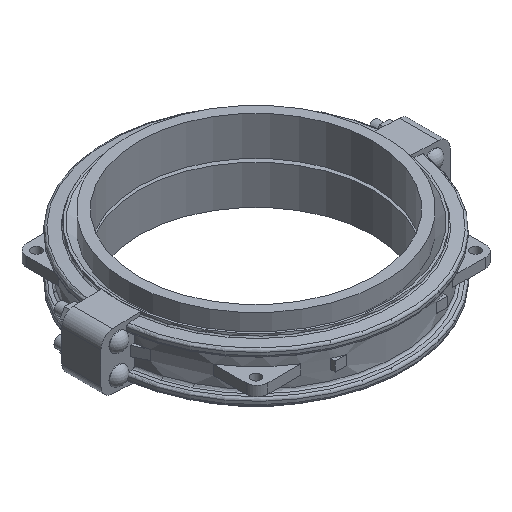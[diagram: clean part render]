
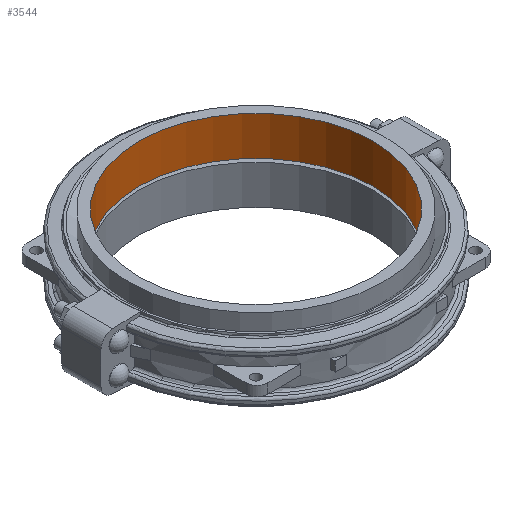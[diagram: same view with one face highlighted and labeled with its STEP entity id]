
A CAD part, isometric view. The second image highlights one B-rep face of the part: STEP entity #3544.
In plain terms, the highlighted cylindrical face has radius 304.8 mm (diameter 609.6 mm), a full revolution.
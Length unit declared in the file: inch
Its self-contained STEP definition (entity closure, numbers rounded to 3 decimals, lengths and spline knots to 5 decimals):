
#158=CYLINDRICAL_SURFACE('',#3979,12.);
#382=FACE_OUTER_BOUND('',#606,.T.);
#606=EDGE_LOOP('',(#3060,#3061,#3062,#3063,#3064,#3065));
#865=LINE('',#6479,#1122);
#1122=VECTOR('',#4960,12.);
#1291=CIRCLE('',#3977,12.);
#1292=CIRCLE('',#3978,12.);
#1293=CIRCLE('',#3980,12.);
#1294=CIRCLE('',#3981,12.);
#1623=VERTEX_POINT('',#6473);
#1624=VERTEX_POINT('',#6474);
#1625=VERTEX_POINT('',#6478);
#1626=VERTEX_POINT('',#6480);
#2103=EDGE_CURVE('',#1623,#1624,#1291,.T.);
#2104=EDGE_CURVE('',#1624,#1623,#1292,.T.);
#2105=EDGE_CURVE('',#1624,#1625,#865,.T.);
#2106=EDGE_CURVE('',#1626,#1625,#1293,.T.);
#2107=EDGE_CURVE('',#1625,#1626,#1294,.T.);
#3060=ORIENTED_EDGE('',*,*,#2103,.T.);
#3061=ORIENTED_EDGE('',*,*,#2105,.T.);
#3062=ORIENTED_EDGE('',*,*,#2106,.F.);
#3063=ORIENTED_EDGE('',*,*,#2107,.F.);
#3064=ORIENTED_EDGE('',*,*,#2105,.F.);
#3065=ORIENTED_EDGE('',*,*,#2104,.T.);
#3544=ADVANCED_FACE('',(#382),#158,.F.);
#3977=AXIS2_PLACEMENT_3D('',#6475,#4954,#4955);
#3978=AXIS2_PLACEMENT_3D('',#6476,#4956,#4957);
#3979=AXIS2_PLACEMENT_3D('',#6477,#4958,#4959);
#3980=AXIS2_PLACEMENT_3D('',#6481,#4961,#4962);
#3981=AXIS2_PLACEMENT_3D('',#6482,#4963,#4964);
#4954=DIRECTION('center_axis',(0.,0.,-1.));
#4955=DIRECTION('ref_axis',(1.,0.,0.));
#4956=DIRECTION('center_axis',(0.,0.,-1.));
#4957=DIRECTION('ref_axis',(1.,0.,0.));
#4958=DIRECTION('center_axis',(0.,0.,-1.));
#4959=DIRECTION('ref_axis',(0.,1.,0.));
#4960=DIRECTION('',(0.,0.,1.));
#4961=DIRECTION('center_axis',(0.,0.,-1.));
#4962=DIRECTION('ref_axis',(1.,0.,0.));
#4963=DIRECTION('center_axis',(0.,0.,-1.));
#4964=DIRECTION('ref_axis',(1.,0.,0.));
#6473=CARTESIAN_POINT('',(0.,12.,0.));
#6474=CARTESIAN_POINT('',(0.,-12.,0.));
#6475=CARTESIAN_POINT('Origin',(0.,0.,0.));
#6476=CARTESIAN_POINT('Origin',(0.,0.,0.));
#6477=CARTESIAN_POINT('Origin',(0.,0.,2.));
#6478=CARTESIAN_POINT('',(0.,-12.,4.));
#6479=CARTESIAN_POINT('',(0.,-12.,2.));
#6480=CARTESIAN_POINT('',(0.,12.,4.));
#6481=CARTESIAN_POINT('Origin',(0.,0.,4.));
#6482=CARTESIAN_POINT('Origin',(0.,0.,4.));
